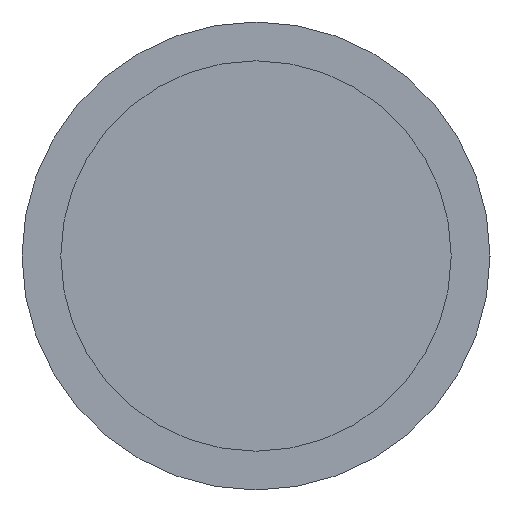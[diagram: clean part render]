
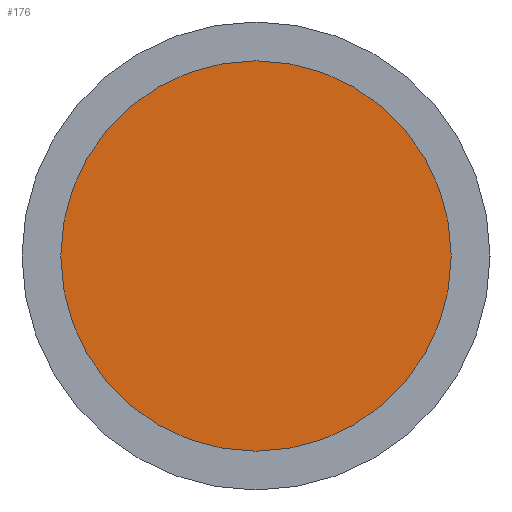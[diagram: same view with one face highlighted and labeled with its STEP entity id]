
A CAD part, left-side view. The second image highlights one B-rep face of the part: STEP entity #176.
In plain terms, the highlighted planar face has unit normal (-1, 0, 0).
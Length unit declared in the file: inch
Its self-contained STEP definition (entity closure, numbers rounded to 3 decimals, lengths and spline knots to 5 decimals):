
#61=FACE_OUTER_BOUND('',#69,.T.);
#69=EDGE_LOOP('',(#125,#126));
#78=CIRCLE('',#205,0.5485);
#79=CIRCLE('',#206,0.5485);
#92=VERTEX_POINT('',#318);
#93=VERTEX_POINT('',#319);
#106=EDGE_CURVE('',#92,#93,#78,.T.);
#107=EDGE_CURVE('',#93,#92,#79,.T.);
#125=ORIENTED_EDGE('',*,*,#106,.F.);
#126=ORIENTED_EDGE('',*,*,#107,.F.);
#163=PLANE('',#204);
#176=ADVANCED_FACE('',(#61),#163,.T.);
#204=AXIS2_PLACEMENT_3D('',#317,#241,#242);
#205=AXIS2_PLACEMENT_3D('',#320,#243,#244);
#206=AXIS2_PLACEMENT_3D('',#321,#245,#246);
#241=DIRECTION('center_axis',(-1.,0.,0.));
#242=DIRECTION('ref_axis',(0.,0.,1.));
#243=DIRECTION('center_axis',(1.,0.,0.));
#244=DIRECTION('ref_axis',(0.,1.,0.));
#245=DIRECTION('center_axis',(1.,0.,0.));
#246=DIRECTION('ref_axis',(0.,1.,0.));
#317=CARTESIAN_POINT('Origin',(2.081,0.27425,0.));
#318=CARTESIAN_POINT('',(2.081,0.5485,0.));
#319=CARTESIAN_POINT('',(2.081,-0.5485,0.));
#320=CARTESIAN_POINT('Origin',(2.081,0.,0.));
#321=CARTESIAN_POINT('Origin',(2.081,0.,0.));
